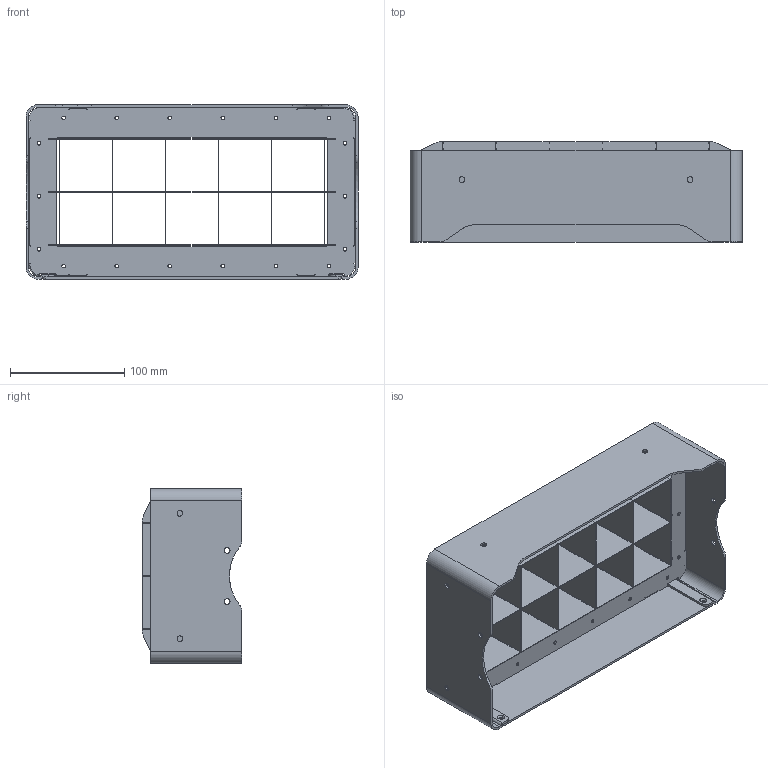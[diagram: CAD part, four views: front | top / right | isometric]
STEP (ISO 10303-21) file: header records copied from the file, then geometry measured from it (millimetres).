
FILE_DESCRIPTION(/* description */ (''),/* implementation_level */ '2;1');
FILE_NAME(/* name */ 'ROXX_NEO mini i_Grid_3D_step',/* time_stamp */ '2025-07-25T13:53:33+02:00',/* author */ (''),/* organization */ (''),/* preprocessor_version */ 'ST-DEVELOPER v16.5',/* originating_system */ 'Rhino 7.38',/* authorisation */ '');
FILE_SCHEMA (('CONFIG_CONTROL_DESIGN'));
Length unit declared in the file: millimetre
Products named in the file (1): Document
Bounding box: 291 x 87.6 x 153 mm (x, y, z)
Volume: 203224.5 mm3; surface area: 340111.9 mm2
Topology: 11 solids, 11 shells, 714 faces, 2033 edges, 1339 vertices
Faces by surface type: plane 444, cylinder 256, bspline 14
Entity records: 21256 total; most frequent: CARTESIAN_POINT 7704, ORIENTED_EDGE 4066, EDGE_CURVE 2033, B_SPLINE_CURVE_WITH_KNOTS 1516, VERTEX_POINT 1339, EDGE_LOOP 836, ADVANCED_FACE 714, FACE_OUTER_BOUND 714
